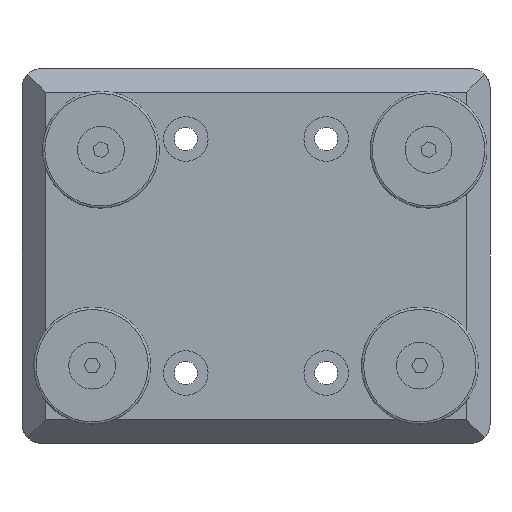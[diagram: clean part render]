
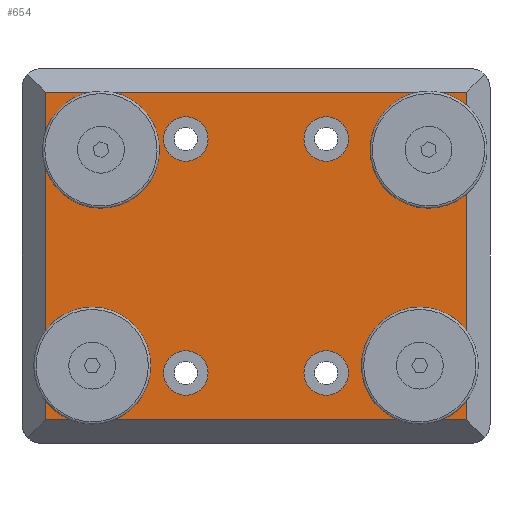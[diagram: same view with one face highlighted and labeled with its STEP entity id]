
A CAD part, front view. The second image highlights one B-rep face of the part: STEP entity #654.
In plain terms, the highlighted planar face has unit normal (0, -1, 0).
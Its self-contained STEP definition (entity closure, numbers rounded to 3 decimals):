
#654=ADVANCED_FACE('',(#932,#933,#934,#935,#936,#937,#938,#939,#940),#941,.T.);
#932=FACE_BOUND('',#1602,.T.);
#933=FACE_BOUND('',#1603,.T.);
#934=FACE_BOUND('',#1604,.T.);
#935=FACE_BOUND('',#1605,.T.);
#936=FACE_BOUND('',#1606,.T.);
#937=FACE_BOUND('',#1607,.T.);
#938=FACE_BOUND('',#1608,.T.);
#939=FACE_BOUND('',#1609,.T.);
#940=FACE_OUTER_BOUND('',#1610,.T.);
#941=PLANE('',#1611);
#1602=EDGE_LOOP('',(#2291));
#1603=EDGE_LOOP('',(#2292));
#1604=EDGE_LOOP('',(#2293));
#1605=EDGE_LOOP('',(#2294));
#1606=EDGE_LOOP('',(#2295));
#1607=EDGE_LOOP('',(#2296));
#1608=EDGE_LOOP('',(#2297));
#1609=EDGE_LOOP('',(#2298));
#1610=EDGE_LOOP('',(#2299,#2300,#2301,#2302));
#1611=AXIS2_PLACEMENT_3D('',#2303,#2304,#2305);
#2291=ORIENTED_EDGE('',*,*,#4140,.F.);
#2292=ORIENTED_EDGE('',*,*,#4141,.F.);
#2293=ORIENTED_EDGE('',*,*,#4142,.F.);
#2294=ORIENTED_EDGE('',*,*,#4143,.F.);
#2295=ORIENTED_EDGE('',*,*,#4144,.T.);
#2296=ORIENTED_EDGE('',*,*,#4145,.T.);
#2297=ORIENTED_EDGE('',*,*,#4146,.T.);
#2298=ORIENTED_EDGE('',*,*,#4147,.T.);
#2299=ORIENTED_EDGE('',*,*,#4148,.F.);
#2300=ORIENTED_EDGE('',*,*,#4129,.F.);
#2301=ORIENTED_EDGE('',*,*,#4149,.T.);
#2302=ORIENTED_EDGE('',*,*,#4131,.T.);
#2303=CARTESIAN_POINT('',(-46.0,-12.0,36.));
#2304=DIRECTION('',(0.,-1.0,0.));
#2305=DIRECTION('',(-1.0,0.,0.));
#4129=EDGE_CURVE('',#4651,#4643,#4653,.T.);
#4131=EDGE_CURVE('',#4657,#4654,#4658,.T.);
#4140=EDGE_CURVE('',#4674,#4674,#4675,.T.);
#4141=EDGE_CURVE('',#4676,#4676,#4677,.T.);
#4142=EDGE_CURVE('',#4678,#4678,#4679,.T.);
#4143=EDGE_CURVE('',#4680,#4680,#4681,.T.);
#4144=EDGE_CURVE('',#4682,#4682,#4683,.T.);
#4145=EDGE_CURVE('',#4684,#4684,#4685,.T.);
#4146=EDGE_CURVE('',#4686,#4686,#4687,.T.);
#4147=EDGE_CURVE('',#4688,#4688,#4689,.T.);
#4148=EDGE_CURVE('',#4643,#4654,#4690,.T.);
#4149=EDGE_CURVE('',#4651,#4657,#4691,.T.);
#4643=VERTEX_POINT('',#5521);
#4651=VERTEX_POINT('',#5531);
#4653=LINE('',#5534,#5535);
#4654=VERTEX_POINT('',#5536);
#4657=VERTEX_POINT('',#5540);
#4658=LINE('',#5541,#5542);
#4674=VERTEX_POINT('',#5564);
#4675=CIRCLE('',#5565,4.0);
#4676=VERTEX_POINT('',#5566);
#4677=CIRCLE('',#5567,4.0);
#4678=VERTEX_POINT('',#5568);
#4679=CIRCLE('',#5569,4.0);
#4680=VERTEX_POINT('',#5570);
#4681=CIRCLE('',#5571,4.0);
#4682=VERTEX_POINT('',#5572);
#4683=CIRCLE('',#5573,4.75);
#4684=VERTEX_POINT('',#5574);
#4685=CIRCLE('',#5575,4.75);
#4686=VERTEX_POINT('',#5576);
#4687=CIRCLE('',#5577,4.75);
#4688=VERTEX_POINT('',#5578);
#4689=CIRCLE('',#5579,4.75);
#4690=LINE('',#5580,#5581);
#4691=LINE('',#5582,#5583);
#5521=CARTESIAN_POINT('',(45.0,-12.0,35.0));
#5531=CARTESIAN_POINT('',(-45.0,-12.0,35.0));
#5534=CARTESIAN_POINT('',(-123.762,-12.0,35.0));
#5535=VECTOR('',#7193,1.0);
#5536=CARTESIAN_POINT('',(45.0,-12.0,-35.0));
#5540=CARTESIAN_POINT('',(-45.0,-12.0,-35.0));
#5541=CARTESIAN_POINT('',(-123.762,-12.0,-35.0));
#5542=VECTOR('',#7195,1.0);
#5564=CARTESIAN_POINT('',(-35.0,-12.0,-19.435));
#5565=AXIS2_PLACEMENT_3D('',#7208,#7209,#7210);
#5566=CARTESIAN_POINT('',(35.0,-12.0,-19.435));
#5567=AXIS2_PLACEMENT_3D('',#7211,#7212,#7213);
#5568=CARTESIAN_POINT('',(35.0,-12.0,27.435));
#5569=AXIS2_PLACEMENT_3D('',#7214,#7215,#7216);
#5570=CARTESIAN_POINT('',(-35.0,-12.0,27.435));
#5571=AXIS2_PLACEMENT_3D('',#7217,#7218,#7219);
#5572=CARTESIAN_POINT('',(15.,-12.0,-29.75));
#5573=AXIS2_PLACEMENT_3D('',#7220,#7221,#7222);
#5574=CARTESIAN_POINT('',(-15.,-12.0,20.25));
#5575=AXIS2_PLACEMENT_3D('',#7223,#7224,#7225);
#5576=CARTESIAN_POINT('',(15.,-12.0,20.25));
#5577=AXIS2_PLACEMENT_3D('',#7226,#7227,#7228);
#5578=CARTESIAN_POINT('',(-15.,-12.0,-29.75));
#5579=AXIS2_PLACEMENT_3D('',#7229,#7230,#7231);
#5580=CARTESIAN_POINT('',(45.0,-12.0,156.679));
#5581=VECTOR('',#7232,1.0);
#5582=CARTESIAN_POINT('',(-45.0,-12.0,156.679));
#5583=VECTOR('',#7233,1.0);
#7193=DIRECTION('',(1.0,0.,0.));
#7195=DIRECTION('',(1.0,0.,0.));
#7208=CARTESIAN_POINT('',(-35.0,-12.0,-23.435));
#7209=DIRECTION('',(0.,-1.0,0.));
#7210=DIRECTION('',(0.,0.,1.0));
#7211=CARTESIAN_POINT('',(35.0,-12.0,-23.435));
#7212=DIRECTION('',(0.,-1.0,0.));
#7213=DIRECTION('',(0.,0.,1.0));
#7214=CARTESIAN_POINT('',(35.0,-12.0,23.435));
#7215=DIRECTION('',(0.,-1.0,0.));
#7216=DIRECTION('',(0.,0.,1.0));
#7217=CARTESIAN_POINT('',(-35.0,-12.0,23.435));
#7218=DIRECTION('',(0.,-1.0,0.));
#7219=DIRECTION('',(0.,0.,1.0));
#7220=CARTESIAN_POINT('',(15.,-12.0,-25.));
#7221=DIRECTION('',(0.,1.0,0.));
#7222=DIRECTION('',(0.,0.,-1.0));
#7223=CARTESIAN_POINT('',(-15.,-12.0,25.));
#7224=DIRECTION('',(0.,1.0,0.));
#7225=DIRECTION('',(0.,0.,-1.0));
#7226=CARTESIAN_POINT('',(15.,-12.0,25.));
#7227=DIRECTION('',(0.,1.0,0.));
#7228=DIRECTION('',(0.,0.,-1.0));
#7229=CARTESIAN_POINT('',(-15.,-12.0,-25.));
#7230=DIRECTION('',(0.,1.0,0.));
#7231=DIRECTION('',(0.,0.,-1.0));
#7232=DIRECTION('',(0.,0.0,-1.0));
#7233=DIRECTION('',(0.,0.0,-1.0));
